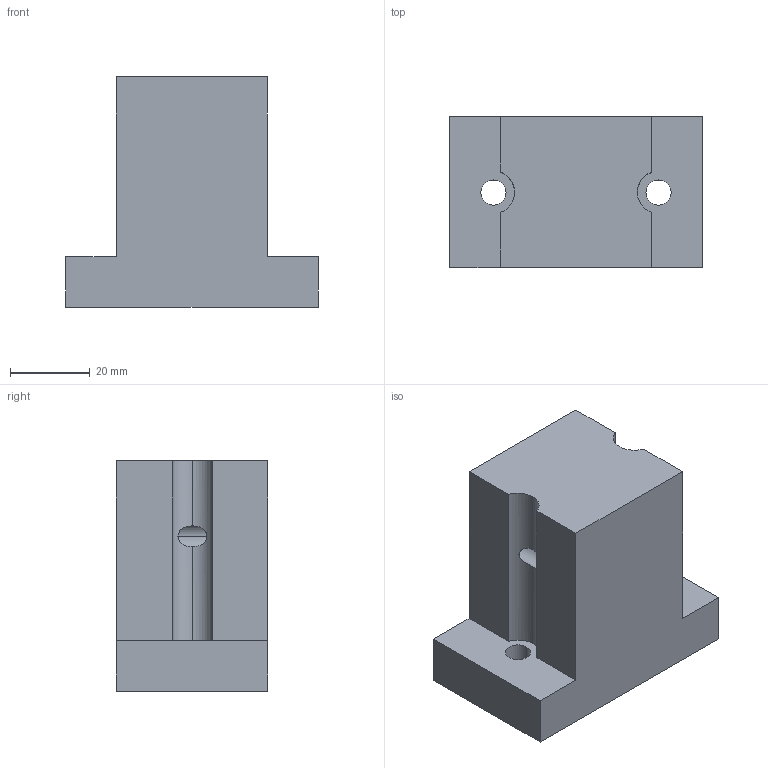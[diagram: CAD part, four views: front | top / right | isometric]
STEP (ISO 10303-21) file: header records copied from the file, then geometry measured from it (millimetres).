
FILE_DESCRIPTION (( 'STEP AP203' ), '1' );
FILE_NAME ('269-18-109.STEP', '2020-03-02T21:45:29', ( '' ), ( '' ), 'SwSTEP 2.0', 'SolidWorks 2017', '' );
FILE_SCHEMA (( 'CONFIG_CONTROL_DESIGN' ));
Length unit declared in the file: inch
Products named in the file (1): 269-18-109
Bounding box: 63.5 x 37.97 x 57.91 mm (x, y, z)
Volume: 91658.2 mm3; surface area: 15493.8 mm2
Topology: 1 solids, 1 shells, 22 faces, 63 edges, 42 vertices
Faces by surface type: plane 13, cylinder 9
Entity records: 878 total; most frequent: CARTESIAN_POINT 198, ORIENTED_EDGE 126, DIRECTION 123, EDGE_CURVE 63, VERTEX_POINT 42, VECTOR 41, AXIS2_PLACEMENT_3D 41, LINE 41
